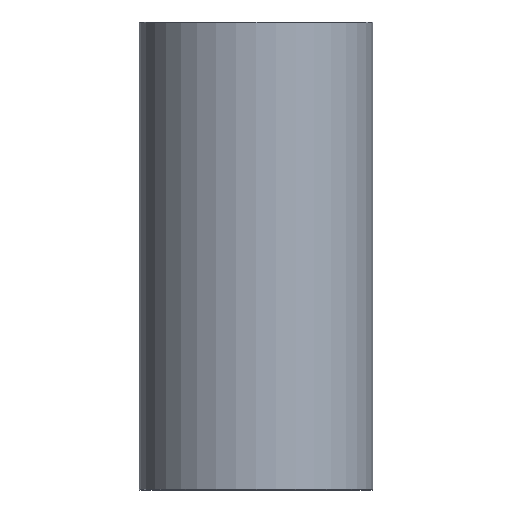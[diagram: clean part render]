
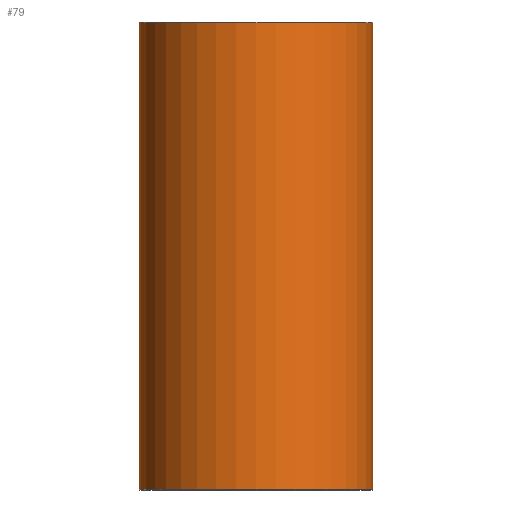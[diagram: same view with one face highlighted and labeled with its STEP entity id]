
A CAD part, front view. The second image highlights one B-rep face of the part: STEP entity #79.
In plain terms, the highlighted cylindrical face has radius 35 mm (diameter 70 mm), a full revolution.
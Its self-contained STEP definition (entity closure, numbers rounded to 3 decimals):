
#79=ADVANCED_FACE('',(#96,#97),#98,.T.);
#96=FACE_OUTER_BOUND('',#120,.T.);
#97=FACE_OUTER_BOUND('',#121,.T.);
#98=CYLINDRICAL_SURFACE('',#122,35.0);
#120=EDGE_LOOP('',(#152));
#121=EDGE_LOOP('',(#153));
#122=AXIS2_PLACEMENT_3D('',#154,#155,#156);
#152=ORIENTED_EDGE('',*,*,#178,.T.);
#153=ORIENTED_EDGE('',*,*,#177,.T.);
#154=CARTESIAN_POINT('',(0.,0.0,140.0));
#155=DIRECTION('',(0.0,0.0,-1.0));
#156=DIRECTION('',(-1.0,0.0,0.0));
#177=EDGE_CURVE('',#190,#190,#191,.T.);
#178=EDGE_CURVE('',#192,#192,#193,.F.);
#190=VERTEX_POINT('',#206);
#191=CIRCLE('',#207,35.0);
#192=VERTEX_POINT('',#208);
#193=CIRCLE('',#209,35.0);
#206=CARTESIAN_POINT('',(35.0,0.0,0.2));
#207=AXIS2_PLACEMENT_3D('',#227,#228,#229);
#208=CARTESIAN_POINT('',(35.0,0.,139.8));
#209=AXIS2_PLACEMENT_3D('',#230,#231,#232);
#227=CARTESIAN_POINT('',(0.,0.0,0.2));
#228=DIRECTION('',(0.0,0.0,1.0));
#229=DIRECTION('',(1.0,0.0,0.0));
#230=CARTESIAN_POINT('',(0.,0.0,139.8));
#231=DIRECTION('',(0.0,0.0,1.0));
#232=DIRECTION('',(1.0,0.0,0.0));
